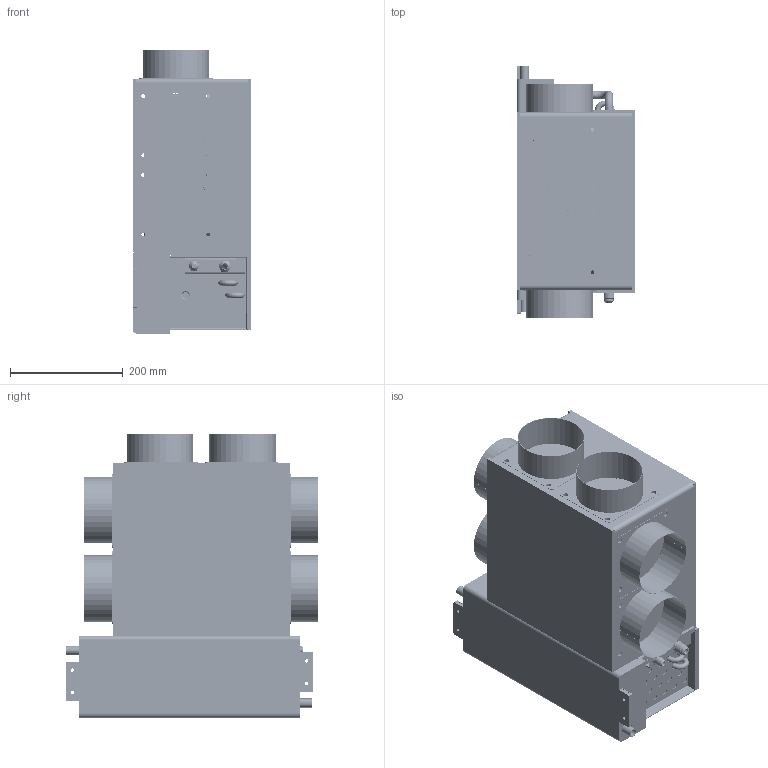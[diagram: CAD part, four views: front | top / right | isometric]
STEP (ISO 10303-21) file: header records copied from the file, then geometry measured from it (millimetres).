
FILE_DESCRIPTION(/* description */ (''),/* implementation_level */ '2;1');
FILE_NAME(/* name */ 'D:\QSync\Disegni\01_Prodotti\LP24i\04_CAD per esportazione\LP24i.stp',/* time_stamp */ '2022-11-04T14:21:03+01:00',/* author */ ('CAD 1'),/* organization */ (''),/* preprocessor_version */ 'ST-DEVELOPER v18.1',/* originating_system */ 'Autodesk Inventor 2021',/* authorisation */ '');
FILE_SCHEMA (('AUTOMOTIVE_DESIGN { 1 0 10303 214 3 1 1 }'));
Products named in the file (39): LP24_NEW; l-al-6145-00-gr22v-4ip_z8_br; MRS_075; MRS_071_22; MRS_070_23; LP24_011; MRM30_21; LP24_021; LP24_031; LP24_041; LP24_051; MRM30_15; MRS_020; MRS_030; Hydro_Connection_3_8; Hydro_Connection_1_2; LP24_ISO_011; LP24_ISO_020; LP24_ISO_030; LP24_001; LP24_002; LP24_005; JP87_000; Pacco_JP87_3; JP87_B0; JP87_A0; JP87_I0; 1020_02; JP87_I0_1; imbocco_18; 2010_00_2010.01; JP87_L0; Forcina_25_h18_15; JP87_G0; Corpo valvola; Valvola E2V; Bobina; Cappuccio; Connettore
Assembly tree (75 placements, depth 4):
  LP24_NEW
    l-al-6145-00-gr22v-4ip_z8_br
    MRS_075  x6
      MRS_071_22
      MRS_070_23
    LP24_011
    MRM30_21
    LP24_021
    LP24_031
    LP24_041
    LP24_051
    MRM30_15
    MRS_020  x2
    MRS_030  x2
    Hydro_Connection_3_8
    Hydro_Connection_1_2
    LP24_ISO_011
    LP24_ISO_020
    LP24_ISO_030
    LP24_001
    LP24_002  x2
    LP24_005  x2
    JP87_000
      Pacco_JP87_3
      JP87_B0
      JP87_A0
      imbocco_18  x28
      Forcina_25_h18_15  x2
      JP87_I0
        1020_02
        JP87_I0_1
      2010_00_2010.01
      JP87_L0
      JP87_G0
    Corpo valvola
    Valvola E2V
      Bobina
      Cappuccio
      Connettore
Bounding box: 210.5 x 447.84 x 501.69 mm (x, y, z)
Volume: 9275955.2 mm3; surface area: 3944481.3 mm2
Topology: 76 solids, 78 shells, 10355 faces, 27134 edges, 17916 vertices
Faces by surface type: plane 7852, cylinder 1070, bspline 842, cone 446, torus 122, sphere 23
Full cylindrical faces by diameter (mm): 2 x3, 3 x3, 3.2 x21, 3.25 x3, 3.3 x4, 4.2 x40, 4.5 x28, 5 x2, 5.2 x7, 5.5 x8, 5.8 x7, 6 x8, 6.5 x1, 6.8 x24, 7.72 x2, 8 x2, 8.22 x4, 8.72 x28, 9 x24, 9.18 x2, 9.32 x30, 9.52 x34, 9.8 x2, 10 x5, 10.2 x3, 11 x54, 12 x6, 12.2 x4, 13 x4, 13.4 x1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
Entity records: 334229 total; most frequent: CARTESIAN_POINT 94285, ORIENTED_EDGE 50750, DIRECTION 46083, EDGE_CURVE 25375, LINE 19269, VECTOR 19269, VERTEX_POINT 16780, AXIS2_PLACEMENT_3D 13407
